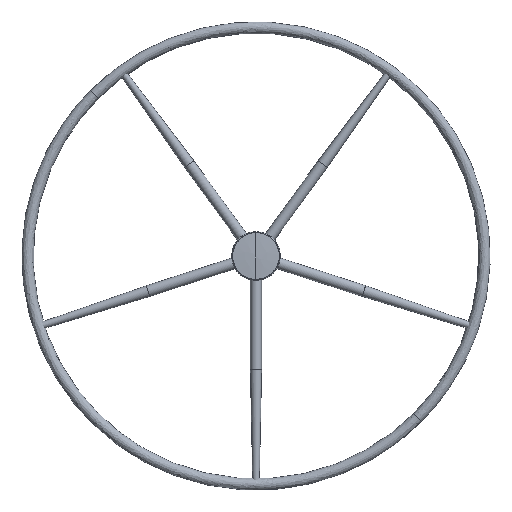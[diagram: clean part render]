
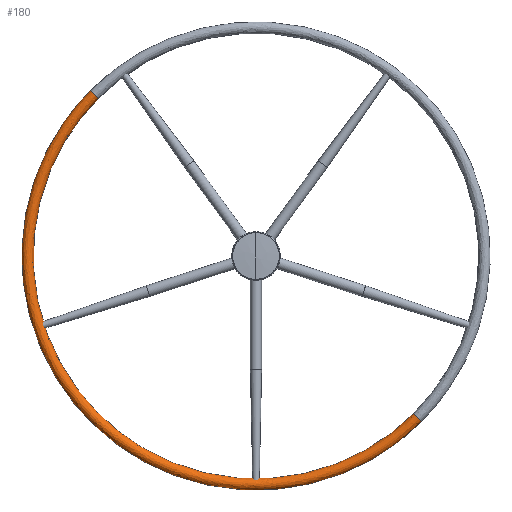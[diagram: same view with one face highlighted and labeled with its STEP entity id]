
A CAD part, top view. The second image highlights one B-rep face of the part: STEP entity #180.
In plain terms, the highlighted free-form (B-spline) face has degree [2, 2] with [5, 5] control points.
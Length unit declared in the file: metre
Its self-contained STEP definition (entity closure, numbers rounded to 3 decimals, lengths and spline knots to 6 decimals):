
#180=ADVANCED_FACE('',(#405),#406,.T.);
#405=FACE_OUTER_BOUND('',#760,.T.);
#406=(B_SPLINE_SURFACE(2,2,((#762,#763,#764,#765,#766),(#767,#768,#769,#770,#771),(#772,#773,#774,#775,#776),(#777,#778,#779,#780,#781),(#782,#783,#784,#785,#786)),.UNSPECIFIED.,.F.,.F.,.F.)B_SPLINE_SURFACE_WITH_KNOTS((3,2,3),(3,2,3),(0.0,1.570796,3.141593),(39.898227,59.84734,79.796453),.UNSPECIFIED.)RATIONAL_B_SPLINE_SURFACE(((1.0,0.707,1.0,0.707,1.0),(0.707,0.5,0.707,0.5,0.707),(1.0,0.707,1.0,0.707,1.0),(0.707,0.5,0.707,0.5,0.707),(1.0,0.707,1.0,0.707,1.0)))BOUNDED_SURFACE()REPRESENTATION_ITEM('')GEOMETRIC_REPRESENTATION_ITEM()SURFACE());
#760=EDGE_LOOP('',(#3013,#3014,#3015,#3016));
#762=CARTESIAN_POINT('',(0.353271,-0.353271,0.));
#763=CARTESIAN_POINT('',(0.353271,-0.353271,0.0127));
#764=CARTESIAN_POINT('',(0.362251,-0.362251,0.0127));
#765=CARTESIAN_POINT('',(0.371231,-0.371231,0.0127));
#766=CARTESIAN_POINT('',(0.371231,-0.371231,0.));
#767=CARTESIAN_POINT('',(0.,-0.706541,0.));
#768=CARTESIAN_POINT('',(0.,-0.706541,0.0127));
#769=CARTESIAN_POINT('',(0.,-0.724502,0.0127));
#770=CARTESIAN_POINT('',(0.,-0.742462,0.0127));
#771=CARTESIAN_POINT('',(0.,-0.742462,0.));
#772=CARTESIAN_POINT('',(-0.353271,-0.353271,0.));
#773=CARTESIAN_POINT('',(-0.353271,-0.353271,0.0127));
#774=CARTESIAN_POINT('',(-0.362251,-0.362251,0.0127));
#775=CARTESIAN_POINT('',(-0.371231,-0.371231,0.0127));
#776=CARTESIAN_POINT('',(-0.371231,-0.371231,0.));
#777=CARTESIAN_POINT('',(-0.706541,0.,0.));
#778=CARTESIAN_POINT('',(-0.706541,0.,0.0127));
#779=CARTESIAN_POINT('',(-0.724502,0.,0.0127));
#780=CARTESIAN_POINT('',(-0.742462,0.,0.0127));
#781=CARTESIAN_POINT('',(-0.742462,0.,0.));
#782=CARTESIAN_POINT('',(-0.353271,0.353271,0.));
#783=CARTESIAN_POINT('',(-0.353271,0.353271,0.0127));
#784=CARTESIAN_POINT('',(-0.362251,0.362251,0.0127));
#785=CARTESIAN_POINT('',(-0.371231,0.371231,0.0127));
#786=CARTESIAN_POINT('',(-0.371231,0.371231,0.));
#3013=ORIENTED_EDGE('',*,*,#3460,.T.);
#3014=ORIENTED_EDGE('',*,*,#3461,.T.);
#3015=ORIENTED_EDGE('',*,*,#3462,.F.);
#3016=ORIENTED_EDGE('',*,*,#3463,.F.);
#3460=EDGE_CURVE('',#3735,#3736,#3737,.T.);
#3461=EDGE_CURVE('',#3736,#3738,#3739,.T.);
#3462=EDGE_CURVE('',#3740,#3738,#3741,.T.);
#3463=EDGE_CURVE('',#3735,#3740,#3742,.T.);
#3735=VERTEX_POINT('',#4131);
#3736=VERTEX_POINT('',#4132);
#3737=(B_SPLINE_CURVE(2,(#4134,#4135,#4136,#4137,#4138),.UNSPECIFIED.,.F.,.F.)B_SPLINE_CURVE_WITH_KNOTS((3,2,3),(0.0,1.570796,3.141593),.UNSPECIFIED.)RATIONAL_B_SPLINE_CURVE((1.0,0.707,1.0,0.707,1.0))BOUNDED_CURVE()REPRESENTATION_ITEM('')GEOMETRIC_REPRESENTATION_ITEM()CURVE());
#3738=VERTEX_POINT('',#4145);
#3739=(B_SPLINE_CURVE(2,(#4147,#4148,#4149,#4150,#4151),.UNSPECIFIED.,.F.,.F.)B_SPLINE_CURVE_WITH_KNOTS((3,2,3),(39.898227,59.84734,79.796453),.UNSPECIFIED.)RATIONAL_B_SPLINE_CURVE((1.0,0.707,1.0,0.707,1.0))BOUNDED_CURVE()REPRESENTATION_ITEM('')GEOMETRIC_REPRESENTATION_ITEM()CURVE());
#3740=VERTEX_POINT('',#4158);
#3741=(B_SPLINE_CURVE(2,(#4160,#4161,#4162,#4163,#4164),.UNSPECIFIED.,.F.,.F.)B_SPLINE_CURVE_WITH_KNOTS((3,2,3),(0.0,1.570796,3.141593),.UNSPECIFIED.)RATIONAL_B_SPLINE_CURVE((1.0,0.707,1.0,0.707,1.0))BOUNDED_CURVE()REPRESENTATION_ITEM('')GEOMETRIC_REPRESENTATION_ITEM()CURVE());
#3742=(B_SPLINE_CURVE(2,(#4172,#4173,#4174,#4175,#4176),.UNSPECIFIED.,.F.,.F.)B_SPLINE_CURVE_WITH_KNOTS((3,2,3),(39.898227,59.84734,79.796453),.UNSPECIFIED.)RATIONAL_B_SPLINE_CURVE((1.0,0.707,1.0,0.707,1.0))BOUNDED_CURVE()REPRESENTATION_ITEM('')GEOMETRIC_REPRESENTATION_ITEM()CURVE());
#4131=CARTESIAN_POINT('',(0.353271,-0.353271,0.));
#4132=CARTESIAN_POINT('',(-0.353271,0.353271,0.));
#4134=CARTESIAN_POINT('',(0.353271,-0.353271,0.));
#4135=CARTESIAN_POINT('',(0.,-0.706541,0.));
#4136=CARTESIAN_POINT('',(-0.353271,-0.353271,0.));
#4137=CARTESIAN_POINT('',(-0.706541,0.,0.0));
#4138=CARTESIAN_POINT('',(-0.353271,0.353271,0.));
#4145=CARTESIAN_POINT('',(-0.371231,0.371231,0.));
#4147=CARTESIAN_POINT('',(-0.353271,0.353271,0.));
#4148=CARTESIAN_POINT('',(-0.353271,0.353271,0.0127));
#4149=CARTESIAN_POINT('',(-0.362251,0.362251,0.0127));
#4150=CARTESIAN_POINT('',(-0.371231,0.371231,0.0127));
#4151=CARTESIAN_POINT('',(-0.371231,0.371231,0.));
#4158=CARTESIAN_POINT('',(0.371231,-0.371231,0.));
#4160=CARTESIAN_POINT('',(0.371231,-0.371231,0.));
#4161=CARTESIAN_POINT('',(0.,-0.742462,0.));
#4162=CARTESIAN_POINT('',(-0.371231,-0.371231,0.));
#4163=CARTESIAN_POINT('',(-0.742462,0.,0.0));
#4164=CARTESIAN_POINT('',(-0.371231,0.371231,0.));
#4172=CARTESIAN_POINT('',(0.353271,-0.353271,0.));
#4173=CARTESIAN_POINT('',(0.353271,-0.353271,0.0127));
#4174=CARTESIAN_POINT('',(0.362251,-0.362251,0.0127));
#4175=CARTESIAN_POINT('',(0.371231,-0.371231,0.0127));
#4176=CARTESIAN_POINT('',(0.371231,-0.371231,0.));
